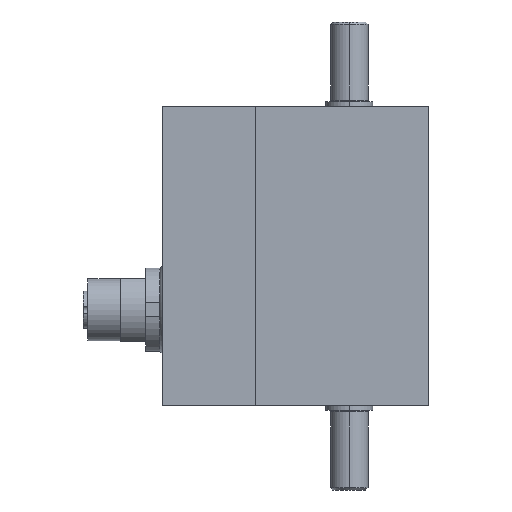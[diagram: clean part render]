
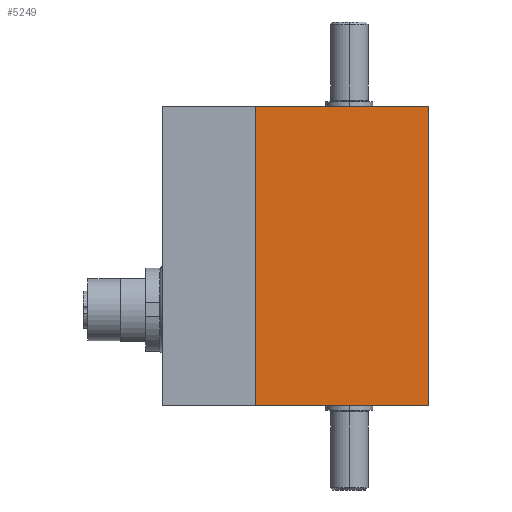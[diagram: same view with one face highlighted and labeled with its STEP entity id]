
A CAD part, left-side view. The second image highlights one B-rep face of the part: STEP entity #5249.
In plain terms, the highlighted planar face has unit normal (-1, 0, 0) as drawn and (0, 1, 0) by its records, which use the part's own axes.
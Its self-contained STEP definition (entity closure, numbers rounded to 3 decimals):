
#24 = EDGE_LOOP ( 'NONE', ( #6421, #1272, #3128, #5152 ) ) ;
#237 = CARTESIAN_POINT ( 'NONE',  ( -17., 17., -32. ) ) ;
#248 = LINE ( 'NONE', #2075, #2991 ) ;
#633 = CARTESIAN_POINT ( 'NONE',  ( -17., 17., 32. ) ) ;
#825 = DIRECTION ( 'NONE',  ( -1., 0., 0. ) ) ;
#1057 = CARTESIAN_POINT ( 'NONE',  ( -17., 17., 32. ) ) ;
#1170 = DIRECTION ( 'NONE',  ( 0., -1., 0. ) ) ;
#1272 = ORIENTED_EDGE ( 'NONE', *, *, #2505, .F. ) ;
#1312 = EDGE_CURVE ( 'NONE', #4472, #2423, #2664, .T. ) ;
#1405 = VECTOR ( 'NONE', #825, 1000. ) ;
#1710 = PLANE ( 'NONE',  #2977 ) ;
#1722 = LINE ( 'NONE', #3379, #4461 ) ;
#2026 = CARTESIAN_POINT ( 'NONE',  ( 20., 17., 32. ) ) ;
#2075 = CARTESIAN_POINT ( 'NONE',  ( -17., 17., 32. ) ) ;
#2174 = EDGE_CURVE ( 'NONE', #4472, #2613, #1722, .T. ) ;
#2324 = DIRECTION ( 'NONE',  ( 0., 0., -1. ) ) ;
#2423 = VERTEX_POINT ( 'NONE', #4163 ) ;
#2505 = EDGE_CURVE ( 'NONE', #2613, #3507, #248, .T. ) ;
#2613 = VERTEX_POINT ( 'NONE', #1057 ) ;
#2664 = LINE ( 'NONE', #2026, #2843 ) ;
#2800 = FACE_OUTER_BOUND ( 'NONE', #24, .T. ) ;
#2843 = VECTOR ( 'NONE', #2324, 1000. ) ;
#2876 = LINE ( 'NONE', #237, #1405 ) ;
#2977 = AXIS2_PLACEMENT_3D ( 'NONE', #633, #1170, #5009 ) ;
#2991 = VECTOR ( 'NONE', #3172, 1000. ) ;
#3128 = ORIENTED_EDGE ( 'NONE', *, *, #2174, .F. ) ;
#3168 = CARTESIAN_POINT ( 'NONE',  ( 20., 17., 32. ) ) ;
#3172 = DIRECTION ( 'NONE',  ( 0., 0., -1. ) ) ;
#3379 = CARTESIAN_POINT ( 'NONE',  ( -17., 17., 32. ) ) ;
#3432 = CARTESIAN_POINT ( 'NONE',  ( -17., 17., -32. ) ) ;
#3507 = VERTEX_POINT ( 'NONE', #3432 ) ;
#4163 = CARTESIAN_POINT ( 'NONE',  ( 20., 17., -32. ) ) ;
#4461 = VECTOR ( 'NONE', #5029, 1000. ) ;
#4472 = VERTEX_POINT ( 'NONE', #3168 ) ;
#5009 = DIRECTION ( 'NONE',  ( 0., 0., -1. ) ) ;
#5029 = DIRECTION ( 'NONE',  ( -1., 0., 0. ) ) ;
#5152 = ORIENTED_EDGE ( 'NONE', *, *, #1312, .T. ) ;
#5249 = ADVANCED_FACE ( 'NONE', ( #2800 ), #1710, .F. ) ;
#5505 = EDGE_CURVE ( 'NONE', #2423, #3507, #2876, .T. ) ;
#6421 = ORIENTED_EDGE ( 'NONE', *, *, #5505, .T. ) ;
